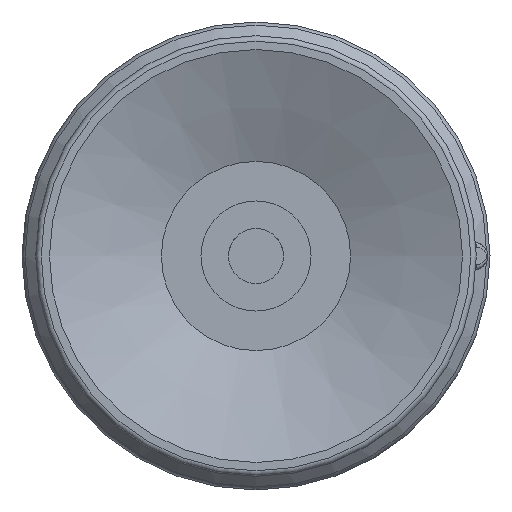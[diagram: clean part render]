
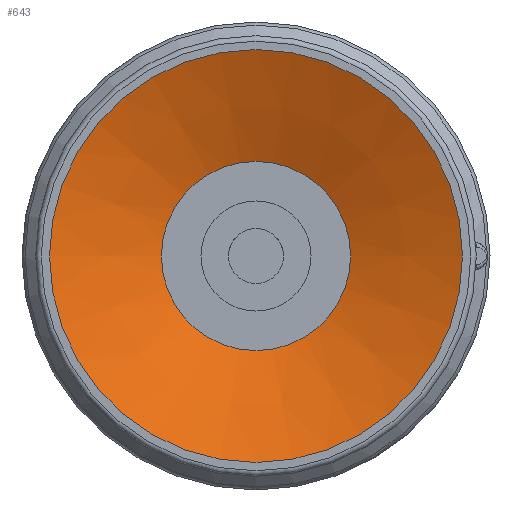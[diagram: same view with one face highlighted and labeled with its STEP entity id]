
A CAD part, front view. The second image highlights one B-rep face of the part: STEP entity #643.
In plain terms, the highlighted conical face has half-angle 67.5 degrees and reference radius 3.437 mm.
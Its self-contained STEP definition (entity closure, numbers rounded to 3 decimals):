
#643=ADVANCED_FACE('',(#923,#924),#925,.F.);
#923=FACE_BOUND('',#2237,.T.);
#924=FACE_OUTER_BOUND('',#2238,.T.);
#925=CONICAL_SURFACE('',#2239,3.437,1.178);
#2237=EDGE_LOOP('',(#2960));
#2238=EDGE_LOOP('',(#2961));
#2239=AXIS2_PLACEMENT_3D('',#2962,#2963,#2964);
#2960=ORIENTED_EDGE('',*,*,#3227,.F.);
#2961=ORIENTED_EDGE('',*,*,#3217,.T.);
#2962=CARTESIAN_POINT('',(0.0,0.0,1.683));
#2963=DIRECTION('',(0.0,0.,-1.0));
#2964=DIRECTION('',(0.0,1.0,0.));
#3217=EDGE_CURVE('',#3554,#3554,#3555,.T.);
#3227=EDGE_CURVE('',#3574,#3574,#3575,.T.);
#3554=VERTEX_POINT('',#4503);
#3555=CIRCLE('',#4504,7.5);
#3574=VERTEX_POINT('',#4523);
#3575=CIRCLE('',#4524,3.437);
#4503=CARTESIAN_POINT('',(-7.5,0.0,0.));
#4504=AXIS2_PLACEMENT_3D('',#4799,#4800,#4801);
#4523=CARTESIAN_POINT('',(-3.437,0.0,1.683));
#4524=AXIS2_PLACEMENT_3D('',#4829,#4830,#4831);
#4799=CARTESIAN_POINT('',(0.0,0.0,0.));
#4800=DIRECTION('',(0.0,0.,-1.0));
#4801=DIRECTION('',(0.0,1.0,0.));
#4829=CARTESIAN_POINT('',(0.0,0.0,1.683));
#4830=DIRECTION('',(0.0,0.,-1.0));
#4831=DIRECTION('',(0.0,1.0,0.));
